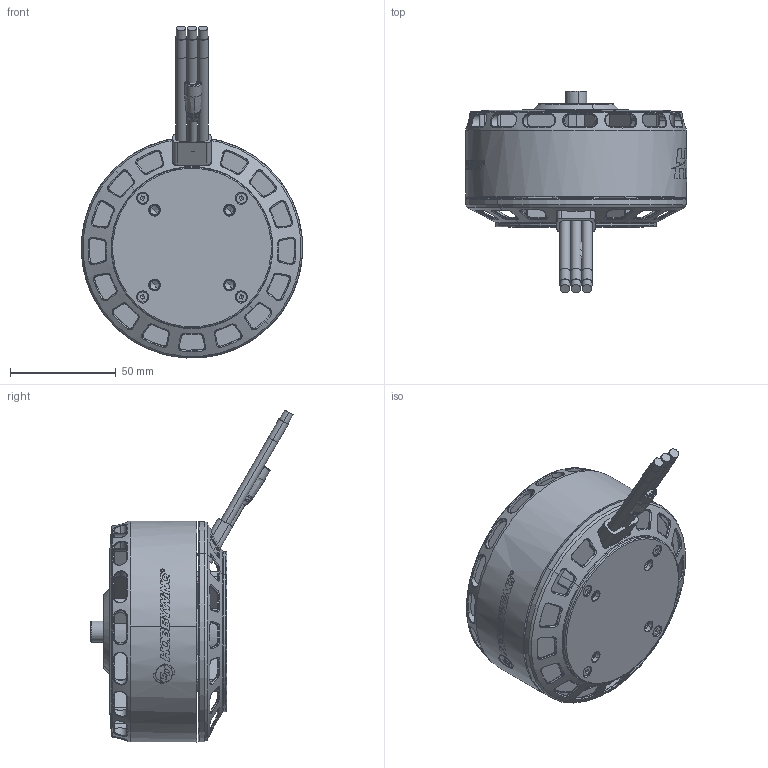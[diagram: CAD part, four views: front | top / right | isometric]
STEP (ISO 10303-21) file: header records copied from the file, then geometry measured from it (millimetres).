
FILE_DESCRIPTION (( 'STEP AP203' ), '1' );
FILE_NAME ('HV-9626-湍棠晤-萇儂3D-勤俋.STEP', '2024-01-11T13:24:24', ( '' ), ( '' ), 'SwSTEP 2.0', 'SolidWorks 2021', '' );
FILE_SCHEMA (( 'CONFIG_CONTROL_DESIGN' ));
Length unit declared in the file: millimetre
Products named in the file (1): HV-9626-湍棠晤-萇儂3D-勤俋
Bounding box: 104.5 x 95.58 x 156.88 mm (x, y, z)
Volume: 312952.1 mm3; surface area: 78515.4 mm2
Topology: 10 solids, 16 shells, 3010 faces, 7863 edges, 4987 vertices
Faces by surface type: plane 1536, bspline 627, cylinder 607, cone 212, torus 28
Entity records: 127490 total; most frequent: CARTESIAN_POINT 59242, ORIENTED_EDGE 15662, DIRECTION 11672, EDGE_CURVE 7831, VERTEX_POINT 4987, AXIS2_PLACEMENT_3D 3966, LINE 3740, VECTOR 3740
